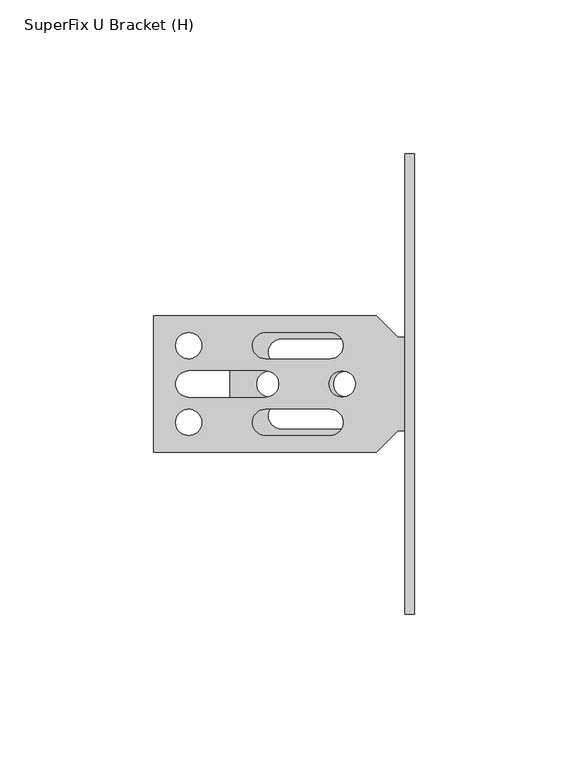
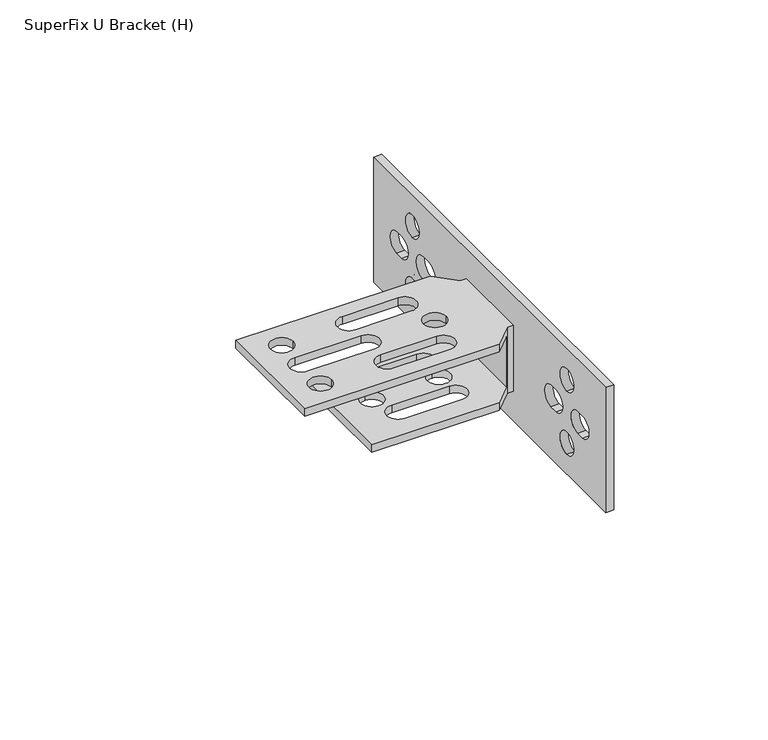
"""IFC4 building model written with IfcOpenShell, lengths in millimetres: valve geometry, SuperFix U Bracket (H) : Superfix U Bracket (H)."""

import ifcopenshell
import ifcopenshell.guid

model = None  # the IFC model being written
_history = None  # IfcOwnerHistory: only IFC2X3 demands one
_inside = {}  # id of a spatial element -> (the spatial element, [elements in it])
_under = {}  # id of a project, library or spatial element -> (it, [spatial elements below it])
_declared = {}  # id of a project -> (the project, [libraries it declares])
_typed = {}  # id of a type object -> (the type object, [elements of that type])
_made_of = {}  # id of a material, layer set ... -> (it, [elements and type objects made of it])


def new_model(schema):
    """Start an empty IFC model of exactly this schema.

    Asked for "IFC4X3", IfcOpenShell would pick the latest addendum, in which some entities
    have other attributes; the version numbers below select the first issue.
    IFC2X3 requires an IfcOwnerHistory on every rooted entity: one is made here for all.
    """
    global model, _history
    if schema == "IFC4X3":
        model = ifcopenshell.file(schema_version=(4, 3, 0, 0))
    else:
        model = ifcopenshell.file(schema=schema)
    _inside.clear()
    _under.clear()
    _declared.clear()
    _typed.clear()
    _made_of.clear()
    _history = None
    if model.schema == "IFC2X3":
        org = make("IfcOrganization", Name="unknown")
        user = make(
            "IfcPersonAndOrganization",
            ThePerson=make("IfcPerson", FamilyName="unknown"),
            TheOrganization=org,
        )
        app = make(
            "IfcApplication",
            ApplicationDeveloper=org,
            Version="unknown",
            ApplicationFullName="unknown",
            ApplicationIdentifier="unknown",
        )
        _history = make(
            "IfcOwnerHistory",
            OwningUser=user,
            OwningApplication=app,
            ChangeAction="ADDED",
            CreationDate=0,
        )
    return model


def make(cls, **values):
    """One entity of the class cls with the attributes given. An attribute that is None is left unset."""
    return model.create_entity(
        cls, **{name: value for name, value in values.items() if value is not None}
    )


def rooted(cls, **values):
    """An entity with a GlobalId (a new one), such as an element, a storey or a relation."""
    return make(cls, GlobalId=ifcopenshell.guid.new(), OwnerHistory=_history, **values)


def si_unit(unit_type, name, prefix=None):
    """IfcSIUnit, for example si_unit("LENGTHUNIT", "METRE", prefix="MILLI")."""
    return make("IfcSIUnit", UnitType=unit_type, Prefix=prefix, Name=name)


def assignment(units):
    """IfcUnitAssignment: the units of a project."""
    return None if units is None else make("IfcUnitAssignment", Units=units)


def point(xyz):
    """IfcCartesianPoint."""
    return None if xyz is None else make("IfcCartesianPoint", Coordinates=xyz)


def direction(xyz):
    """IfcDirection."""
    return None if xyz is None else make("IfcDirection", DirectionRatios=xyz)


def frame(location, z_axis=None, x_axis=None):
    """IfcAxis2Placement3D, a coordinate frame: its origin and axes. An axis left out is left unset."""
    return make(
        "IfcAxis2Placement3D",
        Location=point(location),
        Axis=direction(z_axis),
        RefDirection=direction(x_axis),
    )


def frame_2d(location, x_axis=None):
    """IfcAxis2Placement2D, a coordinate frame in the plane: its origin and x axis."""
    return make(
        "IfcAxis2Placement2D", Location=point(location), RefDirection=direction(x_axis)
    )


def origin():
    """The frame at (0, 0, 0) with its axes left unset."""
    return frame((0.0, 0.0, 0.0))


def place(relative_to, where):
    """IfcLocalPlacement: puts the frame where relative to a parent placement (None: the world)."""
    return make(
        "IfcLocalPlacement", PlacementRelTo=relative_to, RelativePlacement=where
    )


def context(
    kind, dimensions, precision=None, world=None, true_north=None, identifier=None
):
    """IfcGeometricRepresentationContext, for example the 3D "Model" context."""
    return make(
        "IfcGeometricRepresentationContext",
        ContextIdentifier=identifier,
        ContextType=kind,
        CoordinateSpaceDimension=dimensions,
        Precision=precision,
        WorldCoordinateSystem=world,
        TrueNorth=true_north,
    )


def project(units=None, contexts=None):
    """IfcProject with its units and contexts."""
    return rooted(
        "IfcProject",
        Name="project",
        RepresentationContexts=contexts,
        UnitsInContext=assignment(units),
    )


def spatial(cls, under=None, at=None, **own):
    """A site, building, storey or space (cls), placed at a placement, below another one or the project."""
    s = rooted(cls, ObjectPlacement=at, **own)
    if under is not None:
        _under.setdefault(under.id(), (under, []))[1].append(s)
    return s


def polyline(points):
    """IfcPolyline through the points."""
    return make("IfcPolyline", Points=[point(p) for p in points])


def circle_curve(where, radius):
    """IfcCircle in the frame where."""
    return make("IfcCircle", Position=where, Radius=radius)


def trimmed(basis, trim1, trim2, sense, master):
    """IfcTrimmedCurve: the piece of a basis curve between two trims."""
    return make(
        "IfcTrimmedCurve",
        BasisCurve=basis,
        Trim1=trim1,
        Trim2=trim2,
        SenseAgreement=sense,
        MasterRepresentation=master,
    )


def segment(curve, same_sense, transition):
    """IfcCompositeCurveSegment."""
    return make(
        "IfcCompositeCurveSegment",
        Transition=transition,
        SameSense=same_sense,
        ParentCurve=curve,
    )


def composite_curve(segments, self_intersect=None):
    """IfcCompositeCurve: segments joined end to end."""
    return make("IfcCompositeCurve", Segments=segments, SelfIntersect=self_intersect)


def outline(outer, holes=None, kind="AREA"):
    """IfcArbitraryClosedProfileDef: a profile drawn as a closed curve; with holes, ...WithVoids."""
    if holes is None:
        return make("IfcArbitraryClosedProfileDef", ProfileType=kind, OuterCurve=outer)
    return make(
        "IfcArbitraryProfileDefWithVoids",
        ProfileType=kind,
        OuterCurve=outer,
        InnerCurves=holes,
    )


def extrude(swept, where, along, depth):
    """IfcExtrudedAreaSolid: the profile swept, set in the frame where, extruded along a direction by depth."""
    return make(
        "IfcExtrudedAreaSolid",
        SweptArea=swept,
        Position=where,
        ExtrudedDirection=direction(along),
        Depth=depth,
    )


def shape(context_of_items, identifier, shape_type, items):
    """IfcShapeRepresentation: the items that make up one representation, for example the "Body"."""
    return make(
        "IfcShapeRepresentation",
        ContextOfItems=context_of_items,
        RepresentationIdentifier=identifier,
        RepresentationType=shape_type,
        Items=items,
    )


def source(mapping_origin, context_of_items, identifier, shape_type, items):
    """IfcRepresentationMap: a shape defined once, which mapped items show again and again."""
    return make(
        "IfcRepresentationMap",
        MappingOrigin=mapping_origin,
        MappedRepresentation=shape(context_of_items, identifier, shape_type, items),
    )


def transform(
    local_origin,
    x_axis=None,
    y_axis=None,
    z_axis=None,
    scale=None,
    scale2=None,
    scale3=None,
    uniform=True,
):
    """IfcCartesianTransformationOperator3D, or its non-uniform kind. x_axis, y_axis, z_axis: its Axis1, 2, 3."""
    if uniform:
        return make(
            "IfcCartesianTransformationOperator3D",
            Axis1=direction(x_axis),
            Axis2=direction(y_axis),
            LocalOrigin=point(local_origin),
            Scale=scale,
            Axis3=direction(z_axis),
        )
    return make(
        "IfcCartesianTransformationOperator3DnonUniform",
        Axis1=direction(x_axis),
        Axis2=direction(y_axis),
        LocalOrigin=point(local_origin),
        Scale=scale,
        Axis3=direction(z_axis),
        Scale2=scale2,
        Scale3=scale3,
    )


def mapped(mapping_source, mapping_target):
    """IfcMappedItem: shows the shape of a source again, moved by a transform."""
    return make(
        "IfcMappedItem", MappingSource=mapping_source, MappingTarget=mapping_target
    )


def made_of(thing, what):
    """Note that an element or type object is made of a material, layer set ...; save() writes the relation."""
    if what is not None:
        _made_of.setdefault(what.id(), (what, []))[1].append(thing)
    return thing


def element(
    cls,
    number,
    at=None,
    inside=None,
    cuts=None,
    type_object=None,
    material=None,
    context=None,
    identifier="Body",
    shape_type=None,
    held_by="IfcProductDefinitionShape",
    body=None,
    shapes=None,
    **own,
):
    """One element of the class cls, such as IfcWall. Its Tag is "e" and its number.

    at: its placement. inside: the storey or other place that contains it. cuts: it is an
    opening in that element (IfcRelVoidsElement). A single representation is given by context,
    identifier, shape_type and body (its items); several are given by shapes. held_by: the class
    of the entity that holds the representations. save() writes the other relations.
    """
    e = rooted(cls, Tag="e%d" % number, ObjectPlacement=at, **own)
    if body is not None:
        shapes = [shape(context, identifier, shape_type, body)]
    if shapes is not None:
        e.Representation = make(held_by, Representations=shapes)
    if inside is not None:
        _inside.setdefault(inside.id(), (inside, []))[1].append(e)
    if cuts is not None:
        rooted(
            "IfcRelVoidsElement", RelatingBuildingElement=cuts, RelatedOpeningElement=e
        )
    if type_object is not None:
        _typed.setdefault(type_object.id(), (type_object, []))[1].append(e)
    return made_of(e, material)


def aggregate(whole, parts):
    """IfcRelAggregates: a whole, such as a stair, and the parts it consists of."""
    return rooted("IfcRelAggregates", RelatingObject=whole, RelatedObjects=parts)


def save(model, path):
    """Write the relations noted so far, then the file.

    IfcRelAggregates (storeys below a building ...), IfcRelContainedInSpatialStructure (elements
    in a storey), IfcRelDefinesByType, IfcRelAssociatesMaterial and IfcRelDeclares: one each for
    every whole, place, type object, material and project.
    """
    for whole, parts in _under.values():
        aggregate(whole, parts)
    for where, things in _inside.values():
        rooted(
            "IfcRelContainedInSpatialStructure",
            RelatedElements=things,
            RelatingStructure=where,
        )
    for kind, things in _typed.values():
        rooted("IfcRelDefinesByType", RelatedObjects=things, RelatingType=kind)
    for what, things in _made_of.values():
        rooted("IfcRelAssociatesMaterial", RelatedObjects=things, RelatingMaterial=what)
    for by, libraries in _declared.values():
        rooted("IfcRelDeclares", RelatingContext=by, RelatedDefinitions=libraries)
    model.write(path)


def plane_surface(at):
    """IfcPlane: the flat surface through the origin of the frame at, square to its z axis."""
    return make("IfcPlane", Position=at)


def revolved_surface(curve, axis_point, axis_direction):
    """IfcSurfaceOfRevolution: the curve turned about the line through axis_point along axis_direction."""
    return make(
        "IfcSurfaceOfRevolution",
        SweptCurve=make("IfcArbitraryOpenProfileDef", ProfileType="CURVE", Curve=curve),
        AxisPosition=make("IfcAxis1Placement", Location=point(axis_point), Axis=direction(axis_direction)),
    )


def advanced_brep(points, edges, surfaces, faces):
    """IfcAdvancedBrep: a solid bounded by faces that lie on surfaces and meet in shared edges.

    An edge is (start, end): straight between two places in points (the first is 0);
    or (start, end, curve); or (start, end, curve, False) where it runs against its curve.
    A face is (place in surfaces, loops), or (place, loops, False) where it looks against
    its surface's normal. A loop lists edges by number (the first is 1), with a minus sign
    where the edge is run from its end to its start. The first loop is the outer one.
    """
    corners = [point(p) for p in points]
    vertices = [make("IfcVertexPoint", VertexGeometry=c) for c in corners]
    made = []
    for start, end, *more in edges:
        made.append(
            make(
                "IfcEdgeCurve",
                EdgeStart=vertices[start],
                EdgeEnd=vertices[end],
                EdgeGeometry=more[0] if more else make("IfcPolyline", Points=[corners[start], corners[end]]),
                SameSense=more[1] if len(more) > 1 else True,
            )
        )
    hull = []
    for where, loops, *sense in faces:
        bounds = []
        for j, loop in enumerate(loops):
            ring = [make("IfcOrientedEdge", EdgeElement=made[abs(k) - 1], Orientation=k > 0) for k in loop]
            bounds.append(
                make(
                    "IfcFaceOuterBound" if j == 0 else "IfcFaceBound",
                    Bound=make("IfcEdgeLoop", EdgeList=ring),
                    Orientation=True,
                )
            )
        hull.append(make("IfcAdvancedFace", Bounds=bounds, FaceSurface=surfaces[where], SameSense=sense[0] if sense else True))
    return make("IfcAdvancedBrep", Outer=make("IfcClosedShell", CfsFaces=hull))


def superfix_u_bracket_h_f60a1122(model_context):
    return source(origin(), model_context, "Body", "SolidModel", [
        advanced_brep(
        [(-60.0, -22.25, 3.0), (-60.0, -22.25, 0.0), (-12.3561243, -22.25, 0.0), (-12.3561243, -22.25, 3.0), (-85.0, -22.25, 26.0), (-85.0, -22.25, 23.0), (-12.3561243, -22.25, 23.0), (-12.3561243, -22.25, 26.0), (-85.0, 22.25, 23.0), (-85.0, 22.25, 26.0), (-12.3561243, 22.25, 26.0), (-12.3561243, 22.25, 23.0), (-60.0, 22.25, 0.0), (-60.0, 22.25, 3.0), (-12.3561243, 22.25, 3.0), (-12.3561243, 22.25, 0.0), (-6.0, 15.8938757, 23.0), (-6.0, -15.8938757, 23.0), (-27.75, 0.0, 23.0), (-19.25, 0.0, 23.0), (-77.75, 12.5, 23.0), (-69.25, 12.5, 23.0), (-77.75, -12.5, 23.0), (-69.25, -12.5, 23.0), (-48.5, -16.75, 23.0), (-27.5, -16.75, 23.0), (-27.5, -8.25, 23.0), (-48.5, -8.25, 23.0), (-48.5, 16.75, 23.0), (-48.5, 8.25, 23.0), (-27.5, 8.25, 23.0), (-27.5, 16.75, 23.0), (-73.5, 4.25, 23.0), (-73.5, -4.25, 23.0), (-48.5, -4.25, 23.0), (-48.5, 4.25, 23.0), (-5.2850565, -15.1789322, 26.0), (-3.0, -15.1789322, 26.0), (-3.0, 15.1789322, 26.0), (-5.2850565, 15.1789322, 26.0), (-19.25, 0.0, 26.0), (-27.75, 0.0, 26.0), (-69.25, 12.5, 26.0), (-77.75, 12.5, 26.0), (-69.25, -12.5, 26.0), (-77.75, -12.5, 26.0), (-27.5, -16.75, 26.0), (-48.5, -16.75, 26.0), (-48.5, -8.25, 26.0), (-27.5, -8.25, 26.0), (-48.5, 8.25, 26.0), (-48.5, 16.75, 26.0), (-27.5, 16.75, 26.0), (-27.5, 8.25, 26.0), (-73.5, -4.25, 26.0), (-73.5, 4.25, 26.0), (-48.5, 4.25, 26.0), (-48.5, -4.25, 26.0), (-3.0, -15.1789322, 0.0), (-3.0, 15.1789322, 0.0), (-5.2850565, 15.1789322, 0.0), (-5.2850565, -15.1789322, 0.0), (-22.0104715, -4.25, 0.0), (-22.0104715, 4.25, 0.0), (-47.0104715, -4.25, 0.0), (-47.0104715, 4.25, 0.0), (-43.2294559, -14.638255, 0.0), (-21.7472586, -14.638255, 0.0), (-21.7472586, -6.138255, 0.0), (-43.2294559, -6.138255, 0.0), (-21.7472586, 6.138255, 0.0), (-21.7472586, 14.638255, 0.0), (-43.2294559, 14.638255, 0.0), (-43.2294559, 6.138255, 0.0), (-6.0, -15.8938757, 3.0), (-6.0, 15.8938757, 3.0), (-22.0104715, 4.25, 3.0), (-22.0104715, -4.25, 3.0), (-47.0104715, 4.25, 3.0), (-47.0104715, -4.25, 3.0), (-21.7472586, -14.638255, 3.0), (-43.2294559, -14.638255, 3.0), (-43.2294559, -6.138255, 3.0), (-21.7472586, -6.138255, 3.0), (-21.7472586, 14.638255, 3.0), (-21.7472586, 6.138255, 3.0), (-43.2294559, 6.138255, 3.0), (-43.2294559, 14.638255, 3.0)],
        [
            (0, 1),
            (1, 2),
            (2, 3),
            (3, 0),
            (4, 5),
            (5, 6),
            (6, 7),
            (7, 4),
            (8, 9),
            (9, 10),
            (10, 11),
            (11, 8),
            (12, 13),
            (13, 14),
            (14, 15),
            (15, 12),
            (5, 8),
            (11, 16),
            (16, 17),
            (17, 6),
            (18, 19, circle_curve(frame((-23.5, 0.0, 23.0), z_axis=(0.0, 0.0, 1.0), x_axis=(1.0, 0.0, 0.0)), 4.25)),
            (19, 18, circle_curve(frame((-23.5, 0.0, 23.0), z_axis=(0.0, 0.0, 1.0), x_axis=(1.0, 0.0, 0.0)), 4.25)),
            (20, 21, circle_curve(frame((-73.5, 12.5, 23.0), z_axis=(0.0, 0.0, 1.0), x_axis=(1.0, 0.0, 0.0)), 4.25)),
            (21, 20, circle_curve(frame((-73.5, 12.5, 23.0), z_axis=(0.0, 0.0, 1.0), x_axis=(1.0, 0.0, 0.0)), 4.25)),
            (22, 23, circle_curve(frame((-73.5, -12.5, 23.0), z_axis=(0.0, 0.0, 1.0), x_axis=(1.0, 0.0, 0.0)), 4.25)),
            (23, 22, circle_curve(frame((-73.5, -12.5, 23.0), z_axis=(0.0, 0.0, 1.0), x_axis=(1.0, 0.0, 0.0)), 4.25)),
            (24, 25),
            (25, 26, circle_curve(frame((-27.5, -12.5, 23.0), z_axis=(0.0, 0.0, 1.0), x_axis=(1.0, 0.0, 0.0)), 4.25)),
            (26, 27),
            (27, 24, circle_curve(frame((-48.5, -12.5, 23.0), z_axis=(0.0, 0.0, 1.0), x_axis=(1.0, 0.0, 0.0)), 4.25)),
            (28, 29, circle_curve(frame((-48.5, 12.5, 23.0), z_axis=(0.0, 0.0, 1.0), x_axis=(1.0, 0.0, 0.0)), 4.25)),
            (29, 30),
            (30, 31, circle_curve(frame((-27.5, 12.5, 23.0), z_axis=(0.0, 0.0, 1.0), x_axis=(1.0, 0.0, 0.0)), 4.25)),
            (31, 28),
            (32, 33, circle_curve(frame((-73.5, 0.0, 23.0), z_axis=(0.0, 0.0, 1.0), x_axis=(1.0, 0.0, 0.0)), 4.25)),
            (33, 34),
            (34, 35, circle_curve(frame((-48.5, 0.0, 23.0), z_axis=(0.0, 0.0, 1.0), x_axis=(1.0, 0.0, 0.0)), 4.25)),
            (35, 32),
            (4, 9),
            (7, 36),
            (36, 37),
            (37, 38),
            (38, 39),
            (39, 10),
            (40, 41, circle_curve(frame((-23.5, 0.0, 26.0), z_axis=(0.0, 0.0, -1.0), x_axis=(1.0, 0.0, 0.0)), 4.25)),
            (41, 40, circle_curve(frame((-23.5, 0.0, 26.0), z_axis=(0.0, 0.0, -1.0), x_axis=(1.0, 0.0, 0.0)), 4.25)),
            (42, 43, circle_curve(frame((-73.5, 12.5, 26.0), z_axis=(0.0, 0.0, -1.0), x_axis=(1.0, 0.0, 0.0)), 4.25)),
            (43, 42, circle_curve(frame((-73.5, 12.5, 26.0), z_axis=(0.0, 0.0, -1.0), x_axis=(1.0, 0.0, 0.0)), 4.25)),
            (44, 45, circle_curve(frame((-73.5, -12.5, 26.0), z_axis=(0.0, 0.0, -1.0), x_axis=(1.0, 0.0, 0.0)), 4.25)),
            (45, 44, circle_curve(frame((-73.5, -12.5, 26.0), z_axis=(0.0, 0.0, -1.0), x_axis=(1.0, 0.0, 0.0)), 4.25)),
            (46, 47),
            (47, 48, circle_curve(frame((-48.5, -12.5, 26.0), z_axis=(0.0, 0.0, -1.0), x_axis=(1.0, 0.0, 0.0)), 4.25)),
            (48, 49),
            (49, 46, circle_curve(frame((-27.5, -12.5, 26.0), z_axis=(0.0, 0.0, -1.0), x_axis=(1.0, 0.0, 0.0)), 4.25)),
            (50, 51, circle_curve(frame((-48.5, 12.5, 26.0), z_axis=(0.0, 0.0, -1.0), x_axis=(1.0, 0.0, 0.0)), 4.25)),
            (51, 52),
            (52, 53, circle_curve(frame((-27.5, 12.5, 26.0), z_axis=(0.0, 0.0, -1.0), x_axis=(1.0, 0.0, 0.0)), 4.25)),
            (53, 50),
            (54, 55, circle_curve(frame((-73.5, 0.0, 26.0), z_axis=(0.0, 0.0, -1.0), x_axis=(1.0, 0.0, 0.0)), 4.25)),
            (55, 56),
            (56, 57, circle_curve(frame((-48.5, 0.0, 26.0), z_axis=(0.0, 0.0, -1.0), x_axis=(1.0, 0.0, 0.0)), 4.25)),
            (57, 54),
            (37, 58),
            (58, 59),
            (59, 38),
            (1, 12),
            (15, 60),
            (60, 59),
            (58, 61),
            (61, 2),
            (62, 63, circle_curve(frame((-22.0104715, 0.0, 0.0), z_axis=(0.0, 0.0, 1.0), x_axis=(0.0, -1.0, 0.0)), 4.25)),
            (63, 62, circle_curve(frame((-22.0104715, 0.0, 0.0), z_axis=(0.0, 0.0, 1.0), x_axis=(0.0, -1.0, 0.0)), 4.25)),
            (64, 65, circle_curve(frame((-47.0104715, 0.0, 0.0), z_axis=(0.0, 0.0, 1.0), x_axis=(0.0, -1.0, 0.0)), 4.25)),
            (65, 64, circle_curve(frame((-47.0104715, 0.0, 0.0), z_axis=(0.0, 0.0, 1.0), x_axis=(0.0, -1.0, 0.0)), 4.25)),
            (66, 67),
            (67, 68, circle_curve(frame((-21.7472586, -10.388255, 0.0), z_axis=(0.0, 0.0, 1.0), x_axis=(0.0, -1.0, 0.0)), 4.25)),
            (68, 69),
            (69, 66, circle_curve(frame((-43.2294559, -10.388255, 0.0), z_axis=(0.0, 0.0, 1.0), x_axis=(0.0, -1.0, 0.0)), 4.25)),
            (70, 71, circle_curve(frame((-21.7472586, 10.388255, 0.0), z_axis=(0.0, 0.0, 1.0), x_axis=(0.0, -1.0, 0.0)), 4.25)),
            (71, 72),
            (72, 73, circle_curve(frame((-43.2294559, 10.388255, 0.0), z_axis=(0.0, 0.0, 1.0), x_axis=(0.0, -1.0, 0.0)), 4.25)),
            (73, 70),
            (0, 13),
            (3, 74),
            (74, 75),
            (75, 14),
            (76, 77, circle_curve(frame((-22.0104715, 0.0, 3.0), z_axis=(0.0, 0.0, -1.0), x_axis=(0.0, -1.0, 0.0)), 4.25)),
            (77, 76, circle_curve(frame((-22.0104715, 0.0, 3.0), z_axis=(0.0, 0.0, -1.0), x_axis=(0.0, -1.0, 0.0)), 4.25)),
            (78, 79, circle_curve(frame((-47.0104715, 0.0, 3.0), z_axis=(0.0, 0.0, -1.0), x_axis=(0.0, -1.0, 0.0)), 4.25)),
            (79, 78, circle_curve(frame((-47.0104715, 0.0, 3.0), z_axis=(0.0, 0.0, -1.0), x_axis=(0.0, -1.0, 0.0)), 4.25)),
            (80, 81),
            (81, 82, circle_curve(frame((-43.2294559, -10.388255, 3.0), z_axis=(0.0, 0.0, -1.0), x_axis=(0.0, -1.0, 0.0)), 4.25)),
            (82, 83),
            (83, 80, circle_curve(frame((-21.7472586, -10.388255, 3.0), z_axis=(0.0, 0.0, -1.0), x_axis=(0.0, -1.0, 0.0)), 4.25)),
            (84, 85, circle_curve(frame((-21.7472586, 10.388255, 3.0), z_axis=(0.0, 0.0, -1.0), x_axis=(0.0, -1.0, 0.0)), 4.25)),
            (85, 86),
            (86, 87, circle_curve(frame((-43.2294559, 10.388255, 3.0), z_axis=(0.0, 0.0, -1.0), x_axis=(0.0, -1.0, 0.0)), 4.25)),
            (87, 84),
            (16, 75),
            (74, 17),
            (40, 19),
            (18, 41),
            (42, 21),
            (20, 43),
            (44, 23),
            (22, 45),
            (46, 25),
            (24, 47),
            (49, 26),
            (48, 27),
            (50, 29),
            (28, 51),
            (53, 30),
            (52, 31),
            (54, 33),
            (32, 55),
            (57, 34),
            (56, 35),
            (60, 39),
            (61, 36),
            (62, 77),
            (76, 63),
            (64, 79),
            (78, 65),
            (66, 81),
            (80, 67),
            (69, 82),
            (68, 83),
            (70, 85),
            (84, 71),
            (73, 86),
            (72, 87),
        ],
        [
            plane_surface(frame((-85.0, -22.25, 23.0), z_axis=(0.0, -1.0, 0.0), x_axis=(1.0, 0.0, 0.0))),
            plane_surface(frame((-85.0, 22.25, 23.0), z_axis=(0.0, 1.0, 0.0), x_axis=(-1.0, 0.0, 0.0))),
            plane_surface(frame((-6.0, 22.25, 23.0), z_axis=(0.0, 0.0, -1.0), x_axis=(0.0, -1.0, 0.0))),
            plane_surface(frame((-85.0, 22.25, 23.0), z_axis=(-1.0, 0.0, 0.0), x_axis=(0.0, -1.0, 0.0))),
            plane_surface(frame((-85.0, 22.25, 26.0), z_axis=(0.0, 0.0, 1.0), x_axis=(0.0, -1.0, 0.0))),
            plane_surface(frame((-3.0, 22.25, 26.0), z_axis=(1.0, 0.0, 0.0), x_axis=(0.0, -1.0, 0.0))),
            plane_surface(frame((-3.0, 22.25, 0.0), z_axis=(0.0, 0.0, -1.0), x_axis=(0.0, -1.0, 0.0))),
            plane_surface(frame((-60.0, 22.25, 0.0), z_axis=(-1.0, 0.0, 0.0), x_axis=(0.0, -1.0, 0.0))),
            plane_surface(frame((-60.0, 22.25, 3.0), z_axis=(0.0, 0.0, 1.0), x_axis=(0.0, -1.0, 0.0))),
            plane_surface(frame((-6.0, 22.25, 3.0), z_axis=(-1.0, 0.0, 0.0), x_axis=(0.0, -1.0, 0.0))),
            revolved_surface(polyline([(-19.25, 0.0, 26.0), (-19.25, 0.0, 23.0)]), (-23.5, 0.0, 23.0), (0.0, 0.0, 1.0)),
            revolved_surface(polyline([(-69.25, 12.5, 26.0), (-69.25, 12.5, 23.0)]), (-73.5, 12.5, 0.0), (0.0, 0.0, 1.0)),
            revolved_surface(polyline([(-69.25, -12.5, 26.0), (-69.25, -12.5, 23.0)]), (-73.5, -12.5, 0.0), (0.0, 0.0, 1.0)),
            plane_surface(frame((-48.5, -16.75, 26.0), z_axis=(0.0, 1.0, 0.0), x_axis=(0.0, 0.0, -1.0))),
            revolved_surface(polyline([(-23.25, -12.5, 26.0), (-23.25, -12.5, 23.0)]), (-27.5, -12.5, 0.0), (0.0, 0.0, 1.0)),
            plane_surface(frame((-27.5, -8.25, 26.0), z_axis=(0.0, -1.0, 0.0), x_axis=(0.0, 0.0, -1.0))),
            revolved_surface(polyline([(-44.25, -12.5, 26.0), (-44.25, -12.5, 23.0)]), (-48.5, -12.5, 0.0), (0.0, 0.0, 1.0)),
            revolved_surface(polyline([(-44.25, 12.5, 26.0), (-44.25, 12.5, 23.0)]), (-48.5, 12.5, 0.0), (0.0, 0.0, 1.0)),
            plane_surface(frame((-48.5, 8.25, 26.0), z_axis=(0.0, 1.0, 0.0), x_axis=(0.0, 0.0, -1.0))),
            revolved_surface(polyline([(-23.25, 12.5, 26.0), (-23.25, 12.5, 23.0)]), (-27.5, 12.5, 0.0), (0.0, 0.0, 1.0)),
            plane_surface(frame((-27.5, 16.75, 26.0), z_axis=(0.0, -1.0, 0.0), x_axis=(0.0, 0.0, -1.0))),
            revolved_surface(polyline([(-69.25, 0.0, 26.0), (-69.25, 0.0, 23.0)]), (-73.5, 0.0, 0.0), (0.0, 0.0, 1.0)),
            plane_surface(frame((-73.5, -4.25, 26.0), z_axis=(0.0, 1.0, 0.0), x_axis=(0.0, 0.0, -1.0))),
            revolved_surface(polyline([(-44.25, 0.0, 26.0), (-44.25, 0.0, 23.0)]), (-48.5, 0.0, 0.0), (0.0, 0.0, 1.0)),
            plane_surface(frame((-48.5, 4.25, 26.0), z_axis=(0.0, -1.0, 0.0), x_axis=(0.0, 0.0, -1.0))),
            plane_surface(frame((-5.2850565, 15.1789322, 250.0), z_axis=(0.0, 1.0, 0.0), x_axis=(0.0, 0.0, -1.0))),
            plane_surface(frame((-12.3561243, 22.25, 250.0), z_axis=(0.7071067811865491, 0.707106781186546, 0.0), x_axis=(0.0, 0.0, -1.0))),
            plane_surface(frame((-5.2850565, -15.1789322, 250.0), z_axis=(0.7071067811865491, -0.707106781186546, 0.0), x_axis=(0.0, 0.0, -1.0))),
            plane_surface(frame((-3.0, -15.1789322, 250.0), z_axis=(0.0, -1.0, 0.0), x_axis=(0.0, 0.0, -1.0))),
            revolved_surface(polyline([(-22.0104715, -4.25, 0.0), (-22.0104715, -4.25, 3.0)]), (-22.0104715, 0.0, 3.0), (0.0, 0.0, -1.0)),
            revolved_surface(polyline([(-47.0104715, -4.25, 0.0), (-47.0104715, -4.25, 3.0)]), (-47.0104715, 0.0, 26.0), (0.0, 0.0, -1.0)),
            plane_surface(frame((-21.7472586, -14.638255, 0.0), z_axis=(0.0, 1.0, 0.0), x_axis=(0.0, 0.0, 1.0))),
            revolved_surface(polyline([(-43.2294559, -14.638255, 0.0), (-43.2294559, -14.638255, 3.0)]), (-43.2294559, -10.388255, 26.0), (0.0, 0.0, -1.0)),
            plane_surface(frame((-43.2294559, -6.138255, 0.0), z_axis=(0.0, -1.0, 0.0), x_axis=(0.0, 0.0, 1.0))),
            revolved_surface(polyline([(-21.7472586, -14.638255, 0.0), (-21.7472586, -14.638255, 3.0)]), (-21.7472586, -10.388255, 26.0), (0.0, 0.0, -1.0)),
            revolved_surface(polyline([(-21.7472586, 6.138254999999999, 0.0), (-21.7472586, 6.138254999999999, 3.0)]), (-21.7472586, 10.388255, 26.0), (0.0, 0.0, -1.0)),
            plane_surface(frame((-21.7472586, 6.138255, 0.0), z_axis=(0.0, 1.0, 0.0), x_axis=(0.0, 0.0, 1.0))),
            revolved_surface(polyline([(-43.2294559, 6.138254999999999, 0.0), (-43.2294559, 6.138254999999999, 3.0)]), (-43.2294559, 10.388255, 26.0), (0.0, 0.0, -1.0)),
            plane_surface(frame((-43.2294559, 14.638255, 0.0), z_axis=(0.0, -1.0, 0.0), x_axis=(0.0, 0.0, 1.0))),
        ],
        [
            (0, [[1, 2, 3, 4]]),
            (0, [[5, 6, 7, 8]]),
            (1, [[9, 10, 11, 12]]),
            (1, [[13, 14, 15, 16]]),
            (2, [[17, -12, 18, 19, 20, -6], [21, 22], [23, 24], [25, 26], [27, 28, 29, 30], [31, 32, 33, 34], [35, 36, 37, 38]]),
            (3, [[-5, 39, -9, -17]]),
            (4, [[-39, -8, 40, 41, 42, 43, 44, -10], [45, 46], [47, 48], [49, 50], [51, 52, 53, 54], [55, 56, 57, 58], [59, 60, 61, 62]]),
            (5, [[-42, 63, 64, 65]]),
            (6, [[66, -16, 67, 68, -64, 69, 70, -2], [71, 72], [73, 74], [75, 76, 77, 78], [79, 80, 81, 82]]),
            (7, [[-1, 83, -13, -66]]),
            (8, [[-83, -4, 84, 85, 86, -14], [87, 88], [89, 90], [91, 92, 93, 94], [95, 96, 97, 98]]),
            (9, [[-19, 99, -85, 100]]),
            (10, [[101, -21, 102, -45]]),
            (10, [[-101, -46, -102, -22]]),
            (11, [[103, -23, 104, -47]]),
            (11, [[-103, -48, -104, -24]]),
            (12, [[105, -25, 106, -49]]),
            (12, [[-105, -50, -106, -26]]),
            (13, [[107, -27, 108, -51]]),
            (14, [[-107, -54, 109, -28]]),
            (15, [[-109, -53, 110, -29]]),
            (16, [[-108, -30, -110, -52]]),
            (17, [[111, -31, 112, -55]]),
            (18, [[-111, -58, 113, -32]]),
            (19, [[-113, -57, 114, -33]]),
            (20, [[-112, -34, -114, -56]]),
            (21, [[115, -35, 116, -59]]),
            (22, [[-115, -62, 117, -36]]),
            (23, [[-117, -61, 118, -37]]),
            (24, [[-116, -38, -118, -60]]),
            (25, [[119, -43, -65, -68]]),
            (26, [[-119, -67, -15, -86, -99, -18, -11, -44]]),
            (27, [[120, -40, -7, -20, -100, -84, -3, -70]]),
            (28, [[-120, -69, -63, -41]]),
            (29, [[121, -87, 122, -71]]),
            (29, [[-121, -72, -122, -88]]),
            (30, [[123, -89, 124, -73]]),
            (30, [[-123, -74, -124, -90]]),
            (31, [[125, -91, 126, -75]]),
            (32, [[-125, -78, 127, -92]]),
            (33, [[-127, -77, 128, -93]]),
            (34, [[-126, -94, -128, -76]]),
            (35, [[129, -95, 130, -79]]),
            (36, [[-129, -82, 131, -96]]),
            (37, [[-131, -81, 132, -97]]),
            (38, [[-130, -98, -132, -80]]),
        ],
    ),
        extrude(outline(polyline([(-75.0, -11.75), (-75.0, 37.75), (75.0, 37.75), (75.0, -11.75), (-75.0, -11.75)]), holes=[composite_curve([segment(trimmed(circle_curve(frame_2d((50.0, 0.5)), 4.4), [point((50.0, -3.9))], [point((50.0, 4.9))], True, "CARTESIAN"), True, "CONTINUOUS"), segment(trimmed(circle_curve(frame_2d((50.0, 0.5)), 4.4), [point((50.0, 4.9))], [point((50.0, -3.9))], True, "CARTESIAN"), True, "CONTINUOUS")], self_intersect=False), composite_curve([segment(trimmed(circle_curve(frame_2d((-50.0, 0.5)), 4.4), [point((-50.0, -3.9))], [point((-50.0, 4.9))], True, "CARTESIAN"), True, "CONTINUOUS"), segment(trimmed(circle_curve(frame_2d((-50.0, 0.5)), 4.4), [point((-50.0, 4.9))], [point((-50.0, -3.9))], True, "CARTESIAN"), True, "CONTINUOUS")], self_intersect=False), composite_curve([segment(trimmed(circle_curve(frame_2d((-50.0, 25.5)), 4.4), [point((-50.0, 21.1))], [point((-50.0, 29.9))], True, "CARTESIAN"), True, "CONTINUOUS"), segment(trimmed(circle_curve(frame_2d((-50.0, 25.5)), 4.4), [point((-50.0, 29.9))], [point((-50.0, 21.1))], True, "CARTESIAN"), True, "CONTINUOUS")], self_intersect=False), composite_curve([segment(trimmed(circle_curve(frame_2d((50.0, 25.5)), 4.4), [point((50.0, 21.1))], [point((50.0, 29.9))], True, "CARTESIAN"), True, "CONTINUOUS"), segment(trimmed(circle_curve(frame_2d((50.0, 25.5)), 4.4), [point((50.0, 29.9))], [point((50.0, 21.1))], True, "CARTESIAN"), True, "CONTINUOUS")], self_intersect=False), composite_curve([segment(polyline([(39.6938427, 8.7474074), (43.0, 8.7474074)]), True, "CONTINUOUS"), segment(trimmed(circle_curve(frame_2d((43.0, 13.2747742)), 4.5273668), [point((43.0, 8.7474074))], [point((43.0, 17.802141))], True, "CARTESIAN"), True, "CONTINUOUS"), segment(polyline([(43.0, 17.802141), (39.7030464, 17.802141)]), True, "CONTINUOUS"), segment(trimmed(circle_curve(frame_2d((40.0, 13.2744677)), 4.5374009), [point((39.7030464, 17.802141))], [point((39.6938427, 8.7474074))], True, "CARTESIAN"), True, "CONTINUOUS")], self_intersect=False), composite_curve([segment(trimmed(circle_curve(frame_2d((60.0, 13.0)), 4.2629479), [point((60.2969536, 8.7474074))], [point((60.2969536, 17.2525926))], True, "CARTESIAN"), True, "CONTINUOUS"), segment(polyline([(60.2969536, 17.2525926), (57.0, 17.2525926)]), True, "CONTINUOUS"), segment(trimmed(circle_curve(frame_2d((57.0, 13.0)), 4.2525926), [point((57.0, 17.2525926))], [point((57.0, 8.7474074))], True, "CARTESIAN"), True, "CONTINUOUS"), segment(polyline([(57.0, 8.7474074), (60.2969536, 8.7474074)]), True, "CONTINUOUS")], self_intersect=False), composite_curve([segment(trimmed(circle_curve(frame_2d((-40.0, 13.0)), 4.2629479), [point((-39.7030464, 8.7474074))], [point((-39.7030464, 17.2525926))], True, "CARTESIAN"), True, "CONTINUOUS"), segment(polyline([(-39.7030464, 17.2525926), (-43.0, 17.2525926)]), True, "CONTINUOUS"), segment(trimmed(circle_curve(frame_2d((-43.0, 13.0)), 4.2525926), [point((-43.0, 17.2525926))], [point((-43.0, 8.7474074))], True, "CARTESIAN"), True, "CONTINUOUS"), segment(polyline([(-43.0, 8.7474074), (-39.7030464, 8.7474074)]), True, "CONTINUOUS")], self_intersect=False), composite_curve([segment(polyline([(-60.2969536, 8.7474074), (-57.0, 8.7474074)]), True, "CONTINUOUS"), segment(trimmed(circle_curve(frame_2d((-57.0, 13.0)), 4.2525926), [point((-57.0, 8.7474074))], [point((-57.0, 17.2525926))], True, "CARTESIAN"), True, "CONTINUOUS"), segment(polyline([(-57.0, 17.2525926), (-60.2969536, 17.2525926)]), True, "CONTINUOUS"), segment(trimmed(circle_curve(frame_2d((-60.0, 13.0)), 4.2629479), [point((-60.2969536, 17.2525926))], [point((-60.2969536, 8.7474074))], True, "CARTESIAN"), True, "CONTINUOUS")], self_intersect=False)]), frame((-3.0, 0.0, 0.0), z_axis=(1.0, 0.0, 0.0), x_axis=(0.0, 1.0, 0.0)), (0.0, 0.0, 1.0), 3.0),
    ])


if __name__ == "__main__":
    model = new_model("IFC4")
    model_context = context("Model", 3, world=origin())
    ifc_project = project(units=[si_unit("LENGTHUNIT", "METRE", prefix="MILLI")], contexts=[model_context])
    site = spatial("IfcSite", under=ifc_project)
    building = spatial("IfcBuilding", under=site)
    placement = place(None, origin())
    superfix_u_bracket_h_shape = superfix_u_bracket_h_f60a1122(model_context)
    element("IfcValve", 1, ObjectType="SuperFix U Bracket (H) : Superfix U Bracket (H)", at=placement, inside=building, context=model_context, shape_type="MappedRepresentation", body=[
        mapped(superfix_u_bracket_h_shape, transform((0.0, 0.0, 0.0), x_axis=(1.0, 0.0, 0.0), y_axis=(0.0, 1.0, 0.0), z_axis=(0.0, 0.0, 1.0))),
    ])
    save(model, "model.ifc")
